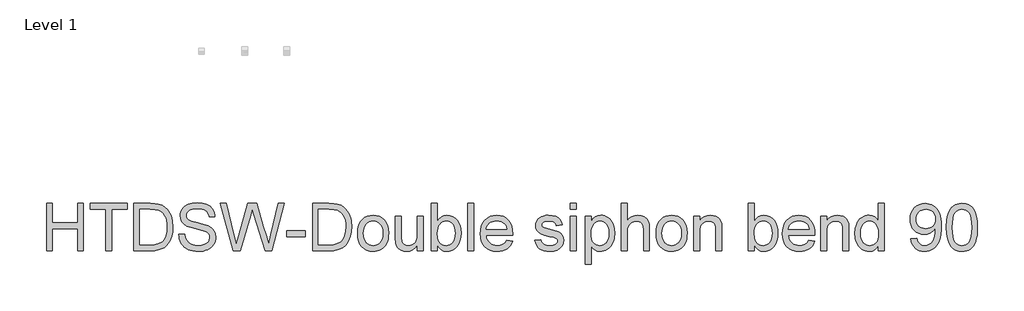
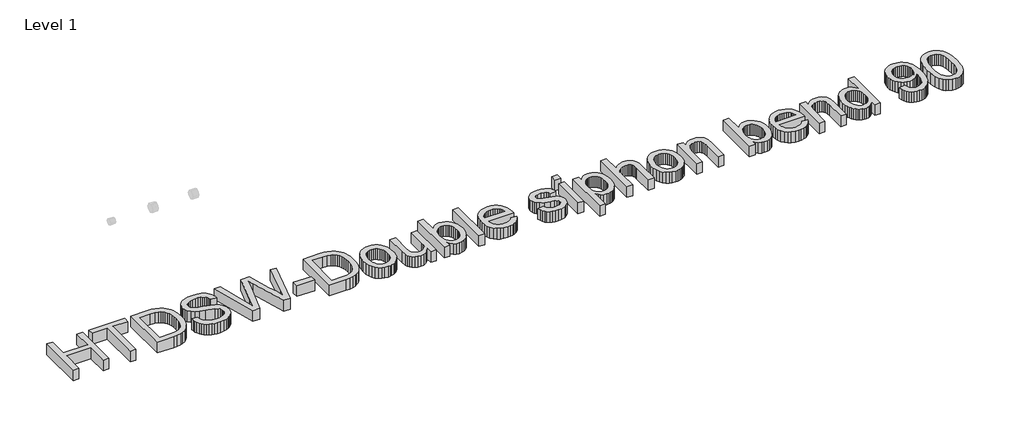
# One storey, part 8 of 29: 1 proxy.
"""IFC4 building model written with IfcOpenShell, lengths in millimetres."""

import ifcopenshell
import ifcopenshell.guid

model = None  # the IFC model being written
_history = None  # IfcOwnerHistory: only IFC2X3 demands one
_inside = {}  # id of a spatial element -> (the spatial element, [elements in it])
_under = {}  # id of a project, library or spatial element -> (it, [spatial elements below it])
_declared = {}  # id of a project -> (the project, [libraries it declares])
_typed = {}  # id of a type object -> (the type object, [elements of that type])
_made_of = {}  # id of a material, layer set ... -> (it, [elements and type objects made of it])


def new_model(schema):
    """Start an empty IFC model of exactly this schema.

    Asked for "IFC4X3", IfcOpenShell would pick the latest addendum, in which some entities
    have other attributes; the version numbers below select the first issue.
    IFC2X3 requires an IfcOwnerHistory on every rooted entity: one is made here for all.
    """
    global model, _history
    if schema == "IFC4X3":
        model = ifcopenshell.file(schema_version=(4, 3, 0, 0))
    else:
        model = ifcopenshell.file(schema=schema)
    _inside.clear()
    _under.clear()
    _declared.clear()
    _typed.clear()
    _made_of.clear()
    _history = None
    if model.schema == "IFC2X3":
        org = make("IfcOrganization", Name="unknown")
        user = make(
            "IfcPersonAndOrganization",
            ThePerson=make("IfcPerson", FamilyName="unknown"),
            TheOrganization=org,
        )
        app = make(
            "IfcApplication",
            ApplicationDeveloper=org,
            Version="unknown",
            ApplicationFullName="unknown",
            ApplicationIdentifier="unknown",
        )
        _history = make(
            "IfcOwnerHistory",
            OwningUser=user,
            OwningApplication=app,
            ChangeAction="ADDED",
            CreationDate=0,
        )
    return model


def make(cls, **values):
    """One entity of the class cls with the attributes given. An attribute that is None is left unset."""
    return model.create_entity(
        cls, **{name: value for name, value in values.items() if value is not None}
    )


def rooted(cls, **values):
    """An entity with a GlobalId (a new one), such as an element, a storey or a relation."""
    return make(cls, GlobalId=ifcopenshell.guid.new(), OwnerHistory=_history, **values)


def si_unit(unit_type, name, prefix=None):
    """IfcSIUnit, for example si_unit("LENGTHUNIT", "METRE", prefix="MILLI")."""
    return make("IfcSIUnit", UnitType=unit_type, Prefix=prefix, Name=name)


def assignment(units):
    """IfcUnitAssignment: the units of a project."""
    return None if units is None else make("IfcUnitAssignment", Units=units)


def point(xyz):
    """IfcCartesianPoint."""
    return None if xyz is None else make("IfcCartesianPoint", Coordinates=xyz)


def direction(xyz):
    """IfcDirection."""
    return None if xyz is None else make("IfcDirection", DirectionRatios=xyz)


def frame(location, z_axis=None, x_axis=None):
    """IfcAxis2Placement3D, a coordinate frame: its origin and axes. An axis left out is left unset."""
    return make(
        "IfcAxis2Placement3D",
        Location=point(location),
        Axis=direction(z_axis),
        RefDirection=direction(x_axis),
    )


def origin():
    """The frame at (0, 0, 0) with its axes left unset."""
    return frame((0.0, 0.0, 0.0))


def origin_with_axes():
    """The frame at (0, 0, 0) with the z axis (0, 0, 1) and the x axis (1, 0, 0) written out."""
    return frame((0.0, 0.0, 0.0), z_axis=(0.0, 0.0, 1.0), x_axis=(1.0, 0.0, 0.0))


def place(relative_to, where):
    """IfcLocalPlacement: puts the frame where relative to a parent placement (None: the world)."""
    return make(
        "IfcLocalPlacement", PlacementRelTo=relative_to, RelativePlacement=where
    )


def context(
    kind, dimensions, precision=None, world=None, true_north=None, identifier=None
):
    """IfcGeometricRepresentationContext, for example the 3D "Model" context."""
    return make(
        "IfcGeometricRepresentationContext",
        ContextIdentifier=identifier,
        ContextType=kind,
        CoordinateSpaceDimension=dimensions,
        Precision=precision,
        WorldCoordinateSystem=world,
        TrueNorth=true_north,
    )


def project(units=None, contexts=None):
    """IfcProject with its units and contexts."""
    return rooted(
        "IfcProject",
        Name="project",
        RepresentationContexts=contexts,
        UnitsInContext=assignment(units),
    )


def spatial(cls, under=None, at=None, **own):
    """A site, building, storey or space (cls), placed at a placement, below another one or the project."""
    s = rooted(cls, ObjectPlacement=at, **own)
    if under is not None:
        _under.setdefault(under.id(), (under, []))[1].append(s)
    return s


def polyline(points):
    """IfcPolyline through the points."""
    return make("IfcPolyline", Points=[point(p) for p in points])


def outline(outer, holes=None, kind="AREA"):
    """IfcArbitraryClosedProfileDef: a profile drawn as a closed curve; with holes, ...WithVoids."""
    if holes is None:
        return make("IfcArbitraryClosedProfileDef", ProfileType=kind, OuterCurve=outer)
    return make(
        "IfcArbitraryProfileDefWithVoids",
        ProfileType=kind,
        OuterCurve=outer,
        InnerCurves=holes,
    )


def extrude(swept, where, along, depth):
    """IfcExtrudedAreaSolid: the profile swept, set in the frame where, extruded along a direction by depth."""
    return make(
        "IfcExtrudedAreaSolid",
        SweptArea=swept,
        Position=where,
        ExtrudedDirection=direction(along),
        Depth=depth,
    )


def shape(context_of_items, identifier, shape_type, items):
    """IfcShapeRepresentation: the items that make up one representation, for example the "Body"."""
    return make(
        "IfcShapeRepresentation",
        ContextOfItems=context_of_items,
        RepresentationIdentifier=identifier,
        RepresentationType=shape_type,
        Items=items,
    )


def made_of(thing, what):
    """Note that an element or type object is made of a material, layer set ...; save() writes the relation."""
    if what is not None:
        _made_of.setdefault(what.id(), (what, []))[1].append(thing)
    return thing


def element(
    cls,
    number,
    at=None,
    inside=None,
    cuts=None,
    type_object=None,
    material=None,
    context=None,
    identifier="Body",
    shape_type=None,
    held_by="IfcProductDefinitionShape",
    body=None,
    shapes=None,
    **own,
):
    """One element of the class cls, such as IfcWall. Its Tag is "e" and its number.

    at: its placement. inside: the storey or other place that contains it. cuts: it is an
    opening in that element (IfcRelVoidsElement). A single representation is given by context,
    identifier, shape_type and body (its items); several are given by shapes. held_by: the class
    of the entity that holds the representations. save() writes the other relations.
    """
    e = rooted(cls, Tag="e%d" % number, ObjectPlacement=at, **own)
    if body is not None:
        shapes = [shape(context, identifier, shape_type, body)]
    if shapes is not None:
        e.Representation = make(held_by, Representations=shapes)
    if inside is not None:
        _inside.setdefault(inside.id(), (inside, []))[1].append(e)
    if cuts is not None:
        rooted(
            "IfcRelVoidsElement", RelatingBuildingElement=cuts, RelatedOpeningElement=e
        )
    if type_object is not None:
        _typed.setdefault(type_object.id(), (type_object, []))[1].append(e)
    return made_of(e, material)


def aggregate(whole, parts):
    """IfcRelAggregates: a whole, such as a stair, and the parts it consists of."""
    return rooted("IfcRelAggregates", RelatingObject=whole, RelatedObjects=parts)


def save(model, path):
    """Write the relations noted so far, then the file.

    IfcRelAggregates (storeys below a building ...), IfcRelContainedInSpatialStructure (elements
    in a storey), IfcRelDefinesByType, IfcRelAssociatesMaterial and IfcRelDeclares: one each for
    every whole, place, type object, material and project.
    """
    for whole, parts in _under.values():
        aggregate(whole, parts)
    for where, things in _inside.values():
        rooted(
            "IfcRelContainedInSpatialStructure",
            RelatedElements=things,
            RelatingStructure=where,
        )
    for kind, things in _typed.values():
        rooted("IfcRelDefinesByType", RelatedObjects=things, RelatingType=kind)
    for what, things in _made_of.values():
        rooted("IfcRelAssociatesMaterial", RelatedObjects=things, RelatingMaterial=what)
    for by, libraries in _declared.values():
        rooted("IfcRelDeclares", RelatingContext=by, RelatedDefinitions=libraries)
    model.write(path)


model = new_model("IFC4")

# Units and contexts
model_context = context("Model", 3, world=origin())
ifc_project = project(units=[si_unit("LENGTHUNIT", "METRE", prefix="MILLI")], contexts=[model_context])

# Site, building, storey
site = spatial("IfcSite", under=ifc_project)
building = spatial("IfcBuilding", under=site)
storey = spatial("IfcBuildingStorey", under=building, Name="Level 1", Elevation=0.0)

# Proxy
placement = place(None, origin())
element("IfcBuildingElementProxy", 1, Name="600mm Arial", ObjectType="600mm Arial", at=placement, inside=storey, context=model_context, shape_type="SweptSolid", body=[
    extrude(outline(polyline([(14784.323056, -35209.9898461), (14784.323056, -34607.2519852), (14859.6652886, -34607.2519852), (14859.6652886, -34852.1142412), (15179.8697772, -34852.1142412), (15179.8697772, -34607.2519852), (15255.2120098, -34607.2519852), (15255.2120098, -35209.9898461), (15179.8697772, -35209.9898461), (15179.8697772, -34927.4564738), (14859.6652886, -34927.4564738), (14859.6652886, -35209.9898461), (14784.323056, -35209.9898461)])), origin_with_axes(), (0.0, 0.0, 1.0), 150.0),
    extrude(outline(polyline([(15537.7453821, -35209.9898461), (15537.7453821, -34682.5942178), (15339.9720215, -34682.5942178), (15339.9720215, -34607.2519852), (15810.8609753, -34607.2519852), (15810.8609753, -34682.5942178), (15613.0876147, -34682.5942178), (15613.0876147, -35209.9898461), (15537.7453821, -35209.9898461)])), origin_with_axes(), (0.0, 0.0, 1.0), 150.0),
    extrude(outline(polyline([(15895.620987, -35209.9898461), (15895.620987, -34607.2519852), (16103.5478907, -34607.2519852), (16165.6831597, -34609.422489), (16211.1165861, -34615.9340003), (16259.1619746, -34632.6726311), (16299.7025705, -34659.0497701), (16322.0422047, -34680.607655), (16341.3836006, -34704.9614431), (16357.7267582, -34732.1111344), (16371.0716776, -34762.0567288), (16381.4367528, -34794.5223148), (16388.8403779, -34829.2319811), (16394.7632781, -34905.3835541), (16390.7533643, -34970.0756029), (16378.7236231, -35027.0053417), (16360.4030997, -35075.4737946), (16337.5208396, -35114.7819857), (16311.1804888, -35145.812832), (16282.4856931, -35169.4492502), (16249.5418605, -35186.9788273), (16210.4543985, -35199.6891502), (16165.1497308, -35207.4146721), (16113.5542809, -35209.9898461), (15895.620987, -35209.9898461)]), holes=[polyline([(15970.9632196, -35134.6476135), (16104.2836547, -35134.6476135), (16159.4291657, -35131.9252867), (16201.2573486, -35123.7583064), (16232.8216238, -35110.6249192), (16257.1754119, -35093.0033716), (16283.3502158, -35060.3906328), (16303.0135085, -35018.1761738), (16315.3191612, -34966.1760538), (16319.4210454, -34904.2063317), (16317.41149, -34860.4651625), (16311.3828239, -34822.0950704), (16301.3350469, -34789.0960554), (16287.2681591, -34761.4681176), (16270.3225947, -34738.5858575), (16251.6387878, -34719.8238757), (16231.2167386, -34705.1821723), (16209.0564469, -34694.6607472), (16165.7199479, -34685.6108502), (16102.2235155, -34682.5942178), (15970.9632196, -34682.5942178), (15970.9632196, -35134.6476135)])]), origin_with_axes(), (0.0, 0.0, 1.0), 150.0),
    extrude(outline(polyline([(16470.1055107, -35002.7987064), (16545.4477433, -35002.7987064), (16554.0929702, -35044.6084952), (16569.727955, -35078.2145154), (16594.1185312, -35104.8859601), (16629.0305326, -35125.892022), (16671.704844, -35139.5220499), (16719.3823506, -35144.0653926), (16761.3576863, -35140.6256959), (16798.1090976, -35130.3066059), (16827.8891451, -35113.9726453), (16848.9503893, -35092.4883368), (16861.4767712, -35067.8218491), (16865.6522319, -35041.9413507), (16862.5252349, -35016.7230399), (16853.1442441, -34994.9260317), (16834.0879567, -34976.3295969), (16801.9350703, -34960.7130062), (16692.2326594, -34931.9446341), (16620.2197588, -34912.9067409), (16574.1425389, -34894.7885526), (16536.6369695, -34869.4414832), (16510.0574953, -34838.7233366), (16494.2201755, -34803.2963004), (16488.9410688, -34763.8225623), (16490.5735452, -34741.3863592), (16495.4709742, -34719.695117), (16503.633356, -34698.7488359), (16515.0606905, -34678.5475159), (16529.624219, -34659.9142928), (16547.1951828, -34643.6723027), (16567.7735819, -34629.8215456), (16591.3594163, -34618.3620214), (16644.3712118, -34602.9661599), (16703.04839, -34597.8342061), (16766.6183988, -34603.2052832), (16822.2421565, -34619.3185146), (16846.5775504, -34631.3206647), (16867.9331003, -34645.8428065), (16886.3088059, -34662.8849399), (16901.7046674, -34682.447065), (16914.0011231, -34703.9589647), (16923.0786113, -34726.8504218), (16928.9371321, -34751.1214365), (16931.5766854, -34776.7720086), (16856.2344528, -34776.7720086), (16851.1944695, -34752.7309202), (16842.4020898, -34731.8168288), (16829.8573138, -34714.0297343), (16813.5601414, -34699.3696368), (16793.20707, -34687.9101126), (16768.494597, -34679.7247382), (16739.4227223, -34674.8135136), (16705.991446, -34673.1764387), (16671.4933119, -34674.7951195), (16642.016767, -34679.6511618), (16617.5618114, -34687.7445657), (16598.128445, -34699.0753312), (16583.3211947, -34712.6961621), (16572.7445873, -34727.6597622), (16566.3986229, -34743.9661317), (16564.2833014, -34761.6152704), (16565.7824206, -34776.7995997), (16570.279778, -34790.5675834), (16577.7753736, -34802.9192214), (16588.2692075, -34813.8545137), (16604.7871091, -34824.2103918), (16630.7963662, -34834.6766346), (16711.2889467, -34855.9402139), (16794.3567012, -34876.1369355), (16844.6093818, -34893.758483), (16887.5596047, -34921.0921153), (16904.1648783, -34937.1593614), (16917.5235932, -34954.8268942), (16927.7920994, -34974.0027432), (16935.1267467, -34994.5949379), (16940.9944645, -35040.0283643), (16939.3068058, -35063.5958046), (16934.2438299, -35086.4734662), (16925.8055366, -35108.661349), (16913.9919261, -35130.1594531), (16899.0099318, -35150.1354455), (16881.0664875, -35167.756993), (16860.1615931, -35183.0240958), (16836.2952487, -35195.9367539), (16810.1618314, -35206.2052601), (16782.4557187, -35213.5399073), (16722.3254066, -35219.4076252), (16683.785169, -35217.8257326), (16648.5098842, -35213.0800549), (16616.4995521, -35205.170592), (16587.7541727, -35194.0973439), (16562.0990021, -35179.8419166), (16539.3592963, -35162.3859159), (16519.5350552, -35141.7293419), (16502.626279, -35117.8721945), (16489.0054482, -35091.5870259), (16479.0450432, -35063.6463884), (16472.745064, -35034.0502819), (16470.1055107, -35002.7987064)])), origin_with_axes(), (0.0, 0.0, 1.0), 150.0),
    extrude(outline(polyline([(17161.8708144, -35209.9898461), (16997.501139, -34607.2519852), (17075.1978163, -34607.2519852), (17170.5528295, -35003.3873176), (17199.9833891, -35125.6712928), (17231.4740879, -35017.5139862), (17350.9621599, -34607.2519852), (17462.9454393, -34607.2519852), (17549.7655901, -34904.6477901), (17586.9584598, -35015.0123886), (17614.3656685, -35125.6712928), (17642.9133113, -35006.9189848), (17739.1512412, -34607.2519852), (17816.8479186, -34607.2519852), (17652.3310904, -35209.9898461), (17571.8385098, -35209.9898461), (17427.3344621, -34744.9870042), (17407.1745288, -34680.0926202), (17384.5129979, -34758.230756), (17252.8112436, -35209.9898461), (17161.8708144, -35209.9898461)])), origin_with_axes(), (0.0, 0.0, 1.0), 150.0),
    extrude(outline(polyline([(17845.1012558, -35031.0520436), (17845.1012558, -34955.709811), (18080.5457328, -34955.709811), (18080.5457328, -35031.0520436), (17845.1012558, -35031.0520436)])), origin_with_axes(), (0.0, 0.0, 1.0), 150.0),
    extrude(outline(polyline([(18174.7235235, -35209.9898461), (18174.7235235, -34607.2519852), (18382.6504272, -34607.2519852), (18444.7856962, -34609.422489), (18490.2191226, -34615.9340003), (18538.2645112, -34632.6726311), (18578.805107, -34659.0497701), (18601.1447412, -34680.607655), (18620.4861371, -34704.9614431), (18636.8292947, -34732.1111344), (18650.1742141, -34762.0567288), (18660.5392893, -34794.5223148), (18667.9429145, -34829.2319811), (18673.8658146, -34905.3835541), (18669.8559008, -34970.0756029), (18657.8261596, -35027.0053417), (18639.5056362, -35075.4737946), (18616.6233761, -35114.7819857), (18590.2830253, -35145.812832), (18561.5882297, -35169.4492502), (18528.644397, -35186.9788273), (18489.556935, -35199.6891502), (18444.2522673, -35207.4146721), (18392.6568175, -35209.9898461), (18174.7235235, -35209.9898461)]), holes=[polyline([(18250.0657561, -35134.6476135), (18383.3861912, -35134.6476135), (18438.5317023, -35131.9252867), (18480.3598851, -35123.7583064), (18511.9241603, -35110.6249192), (18536.2779484, -35093.0033716), (18562.4527523, -35060.3906328), (18582.116045, -35018.1761738), (18594.4216977, -34966.1760538), (18598.523582, -34904.2063317), (18596.5140266, -34860.4651625), (18590.4853604, -34822.0950704), (18580.4375834, -34789.0960554), (18566.3706956, -34761.4681176), (18549.4251312, -34738.5858575), (18530.7413244, -34719.8238757), (18510.3192751, -34705.1821723), (18488.1589834, -34694.6607472), (18444.8224844, -34685.6108502), (18381.326052, -34682.5942178), (18250.0657561, -34682.5942178), (18250.0657561, -35134.6476135)])]), origin_with_axes(), (0.0, 0.0, 1.0), 150.0),
    extrude(outline(polyline([(18749.2080472, -34988.6720378), (18753.2823403, -34931.3468259), (18765.5052196, -34881.949471), (18785.8766851, -34840.4799731), (18814.3967367, -34806.9383322), (18843.1099265, -34785.5000089), (18874.8029603, -34770.1869209), (18909.4758384, -34760.999068), (18947.1285606, -34757.9364504), (18988.6946275, -34761.6658541), (19026.2783719, -34772.8540653), (19059.8797936, -34791.501084), (19089.4988927, -34817.60691), (19113.6733383, -34850.2886268), (19130.9407995, -34888.6633174), (19141.3012762, -34932.7309819), (19144.7547684, -34982.4916203), (19143.2280581, -35022.820684), (19138.6479273, -35058.6064051), (19131.0143759, -35089.8487835), (19120.3274039, -35116.5478193), (19106.7203686, -35139.6094219), (19090.3266272, -35159.9395006), (19071.1461797, -35177.5380556), (19049.1790261, -35192.4050867), (19025.2804919, -35204.2186973), (19000.305903, -35212.6569906), (18974.2552592, -35217.7199665), (18947.1285606, -35219.4076252), (18904.9554884, -35215.692017), (18867.0222561, -35204.5451926), (18833.3288639, -35185.9671518), (18803.8753117, -35159.9578947), (18779.9583835, -35126.9588798), (18762.8748633, -35087.4115653), (18752.6247512, -35041.3159513), (18749.2080472, -34988.6720378)]), holes=[polyline([(18824.5502798, -34988.524885), (18826.7299806, -35025.0693627), (18833.2690831, -35056.7118128), (18844.1675872, -35083.4522353), (18859.4254929, -35105.2906303), (18877.9851396, -35122.2545888), (18898.7888664, -35134.371702), (18921.8366734, -35141.6419699), (18947.1285606, -35144.0653926), (18972.2916891, -35141.6281743), (18995.2475256, -35134.3165197), (19015.9960701, -35122.1304286), (19034.5373227, -35105.0699011), (19049.7952284, -35083.0153755), (19060.6937325, -35055.8472901), (19067.232835, -35023.565645), (19069.4125358, -34986.1704402), (19067.2190394, -34950.7847908), (19060.6385502, -34919.9700752), (19049.6710682, -34893.7262934), (19034.3165935, -34872.0534453), (19015.706363, -34855.0894868), (18994.9716141, -34842.9723736), (18972.1123466, -34835.7021057), (18947.1285606, -34833.278683), (18921.8366734, -34835.6929086), (18898.7888664, -34842.9355854), (18877.9851396, -34855.0067134), (18859.4254929, -34871.9062925), (18844.1675872, -34893.6803081), (18833.2690831, -34920.3747454), (18826.7299806, -34951.9896043), (18824.5502798, -34988.524885)])]), origin_with_axes(), (0.0, 0.0, 1.0), 150.0),
    extrude(outline(polyline([(19512.0481524, -35209.9898461), (19512.0481524, -35133.9118495), (19484.7880965, -35171.3162513), (19453.0398804, -35198.0336812), (19416.8035038, -35214.0641392), (19376.078967, -35219.4076252), (19339.382738, -35215.6552288), (19305.2248947, -35204.3980398), (19276.5668873, -35187.475468), (19256.3701657, -35166.7269235), (19242.776926, -35141.5270068), (19233.929364, -35111.2503186), (19229.5147801, -35041.2055867), (19229.5147801, -34767.3542295), (19304.8570127, -34767.3542295), (19304.8570127, -35005.7417624), (19305.9974469, -35053.4192689), (19309.4187494, -35082.555523), (19320.400027, -35108.1785039), (19339.2171911, -35127.6578556), (19364.6194428, -35139.9635083), (19395.3559835, -35144.0653926), (19427.8583578, -35139.8715378), (19458.2638047, -35127.2899736), (19483.3349627, -35107.4795281), (19499.8344702, -35081.5990298), (19508.9947318, -35046.1535995), (19512.0481524, -34997.6483585), (19512.0481524, -34767.3542295), (19587.390385, -34767.3542295), (19587.390385, -35209.9898461), (19512.0481524, -35209.9898461)])), origin_with_axes(), (0.0, 0.0, 1.0), 150.0),
    extrude(outline(polyline([(19766.3281875, -35209.9898461), (19690.9859548, -35209.9898461), (19690.9859548, -34607.2519852), (19766.3281875, -34607.2519852), (19766.3281875, -34830.7770855), (19791.1050398, -34798.9093076), (19819.0824656, -34776.1466092), (19850.2604647, -34762.4889901), (19884.6390371, -34757.9364504), (19923.4505876, -34762.0383347), (19960.1284225, -34774.3439874), (19992.5756145, -34794.0808564), (20018.6952361, -34820.4763896), (20039.1678692, -34853.2730695), (20054.6740953, -34892.2133787), (20064.4413622, -34935.6786364), (20067.6971179, -34982.0501619), (20064.3263991, -35035.5585981), (20054.2142428, -35082.6290994), (20037.3606489, -35123.2616657), (20013.7656174, -35157.4562972), (19985.4433023, -35184.5600032), (19954.4078575, -35203.9197932), (19920.659283, -35215.5356672), (19884.1975787, -35219.4076252), (19848.6877691, -35214.4136271), (19817.2062674, -35199.4316328), (19789.7530735, -35174.4616424), (19766.3281875, -35139.5036558), (19766.3281875, -35209.9898461)]), holes=[polyline([(19766.3281875, -34985.581829), (19771.4785354, -35048.4160738), (19777.9164703, -35072.2180389), (19786.9295792, -35090.9432325), (19805.1857232, -35114.1841775), (19826.4033173, -35130.7848525), (19850.5823614, -35140.7452575), (19877.7228556, -35144.0653926), (19900.2556278, -35141.6189773), (19921.2065074, -35134.2797315), (19940.5754945, -35122.0476551), (19958.3625889, -35104.9227483), (19973.2342186, -35082.9509961), (19983.8568112, -35056.1783839), (19990.2303668, -35024.6049117), (19992.3548853, -34988.2305794), (19990.3177387, -34951.1664684), (19984.2062991, -34919.2894935), (19974.0205664, -34892.5996548), (19959.7605405, -34871.0969521), (19942.612641, -34854.5514594), (19923.7632873, -34842.7332503), (19903.2124793, -34835.6423248), (19880.9602172, -34833.278683), (19858.4274449, -34835.7250983), (19837.4765653, -34843.0643441), (19818.1075783, -34855.2964204), (19800.3204838, -34872.4213273), (19785.4488542, -34894.1723503), (19774.8262615, -34920.2827749), (19768.452706, -34950.7526011), (19766.3281875, -34985.581829)])]), origin_with_axes(), (0.0, 0.0, 1.0), 150.0),
    extrude(outline(polyline([(20152.4571296, -35209.9898461), (20152.4571296, -34607.2519852), (20227.7993622, -34607.2519852), (20227.7993622, -35209.9898461), (20152.4571296, -35209.9898461)])), origin_with_axes(), (0.0, 0.0, 1.0), 150.0),
    extrude(outline(polyline([(20650.7165039, -35078.140939), (20724.5872085, -35087.5587181), (20713.2610416, -35117.1456276), (20697.9709461, -35143.219264), (20678.7169222, -35165.7796273), (20655.4989698, -35184.8267176), (20628.5562122, -35199.9558647), (20598.1277727, -35210.7623983), (20564.2136512, -35217.2463184), (20526.8138479, -35219.4076252), (20480.0652433, -35215.6782214), (20438.4118044, -35204.4900103), (20401.8535312, -35185.8429916), (20370.3904235, -35159.7371655), (20345.0893393, -35126.899099), (20327.0171363, -35088.0553588), (20316.1738145, -35043.2059451), (20312.5593739, -34992.3508577), (20316.2106027, -34939.7713236), (20327.1642891, -34893.4273892), (20345.4204331, -34853.3190547), (20370.9790347, -34819.44632), (20402.3593689, -34792.5357521), (20438.0807106, -34773.3139178), (20478.1430599, -34761.7808173), (20522.5464167, -34757.9364504), (20565.5196323, -34761.7716202), (20604.3817666, -34773.2771296), (20639.1328195, -34792.4529786), (20669.7727912, -34819.2991672), (20694.7841684, -34853.0983255), (20712.6494378, -34893.1330836), (20723.3685994, -34939.4034416), (20726.9416533, -34991.9093993), (20726.5001949, -35012.2164855), (20387.9016065, -35012.2164855), (20392.2656067, -35042.2816415), (20400.9430232, -35068.6127953), (20413.9338562, -35091.2099469), (20431.2381055, -35110.0730962), (20451.8992781, -35124.9447259), (20474.9608807, -35135.5673185), (20500.4229133, -35141.940874), (20528.2853759, -35144.0653926), (20568.3845133, -35140.1290552), (20602.1560805, -35128.3200432), (20629.6000773, -35107.9025924), (20650.7165039, -35078.140939)]), holes=[polyline([(20387.9016065, -34936.8742529), (20651.5994207, -34936.8742529), (20641.4090894, -34897.069421), (20632.6443008, -34881.4160421), (20621.433097, -34868.5953546), (20600.8868876, -34853.1443108), (20577.5079868, -34842.1078509), (20551.2963947, -34835.485975), (20522.2521111, -34833.278683), (20495.760009, -34835.0399181), (20471.4660017, -34840.3236232), (20449.3700894, -34849.1297985), (20429.472272, -34861.4584439), (20412.7750279, -34876.7393422), (20400.2808356, -34894.4022765), (20391.9896952, -34914.4472467), (20387.9016065, -34936.8742529)])]), origin_with_axes(), (0.0, 0.0, 1.0), 150.0),
    extrude(outline(polyline([(21009.4750256, -35078.140939), (21084.8172582, -35068.7231599), (21089.3697979, -35085.9032491), (21096.6998466, -35100.9496227), (21106.8074044, -35113.8622808), (21119.6924713, -35124.6412232), (21135.3918355, -35133.1392973), (21153.9422851, -35139.2093502), (21199.5964407, -35144.0653926), (21244.6987733, -35139.6140204), (21262.2283503, -35134.0498052), (21276.4102013, -35126.259904), (21295.172183, -35106.909311), (21299.8626785, -35096.0751863), (21301.4261769, -35084.4685093), (21299.8534814, -35074.2965722), (21295.1353948, -35065.2650692), (21276.2630485, -35050.6233658), (21248.0464994, -35041.0584339), (21198.7135239, -35029.1390573), (21129.956379, -35009.2550354), (21085.2587166, -34992.2772813), (21056.5455268, -34973.7544229), (21035.7418, -34949.2350879), (21023.1050535, -34920.2827749), (21018.8928046, -34888.4609823), (21022.277319, -34859.269546), (21032.4308621, -34832.3221898), (21048.4337288, -34808.6857717), (21069.3662144, -34789.4271492), (21090.1699412, -34777.3054375), (21117.2644501, -34767.1335003), (21148.589602, -34760.2357129), (21182.0852577, -34757.9364504), (21231.1239277, -34761.6336645), (21273.7614509, -34772.7253066), (21308.0480528, -34790.126125), (21332.0339589, -34812.7508677), (21347.9264611, -34842.2733978), (21357.9328514, -34880.3675784), (21282.5906188, -34889.7853575), (21273.0808692, -34866.0753629), (21254.2637051, -34848.214692), (21225.9551856, -34837.0126853), (21187.9713696, -34833.278683), (21144.708447, -34836.8471384), (21115.8664986, -34847.5525044), (21099.6429026, -34863.0035482), (21094.2350372, -34880.8090368), (21096.4791174, -34892.3973197), (21103.2113579, -34902.7348037), (21114.7260644, -34911.9686418), (21131.3175424, -34919.3630699), (21196.2119263, -34935.4027249), (21306.7972541, -34970.8665492), (21336.0070845, -34987.8259092), (21358.1535806, -35011.0392631), (21372.1147023, -35040.5801873), (21376.7684095, -35076.5222582), (21371.3053619, -35113.6783398), (21354.916219, -35148.6271293), (21328.2263803, -35178.627906), (21291.8612451, -35200.939949), (21247.9361348, -35214.7907061), (21198.5663711, -35219.4076252), (21158.0165782, -35217.1819391), (21122.5987391, -35210.5048809), (21092.3128538, -35199.3764505), (21067.1589224, -35183.796648), (21046.612713, -35163.8390498), (21030.1499937, -35139.5772322), (21017.7707645, -35111.0111953), (21009.4750256, -35078.140939)])), origin_with_axes(), (0.0, 0.0, 1.0), 150.0),
    extrude(outline(polyline([(21461.5284212, -35209.9898461), (21461.5284212, -34767.3542295), (21536.8706538, -34767.3542295), (21536.8706538, -35209.9898461), (21461.5284212, -35209.9898461)])), origin_with_axes(), (0.0, 0.0, 1.0), 150.0),
    extrude(outline(polyline([(21461.5284212, -34682.5942178), (21461.5284212, -34607.2519852), (21536.8706538, -34607.2519852), (21536.8706538, -34682.5942178), (21461.5284212, -34682.5942178)])), origin_with_axes(), (0.0, 0.0, 1.0), 150.0),
    extrude(outline(polyline([(21649.8840028, -35379.5098695), (21649.8840028, -34767.3542295), (21725.2262354, -34767.3542295), (21725.2262354, -34841.2249341), (21749.8007527, -34804.7862225), (21777.3183259, -34778.7585713), (21809.3976359, -34763.1419806), (21847.6573634, -34757.9364504), (21873.9333349, -34759.7574663), (21898.6090197, -34765.2205139), (21921.6844178, -34774.3255933), (21943.1595293, -34787.0727044), (21962.5653046, -34803.1307535), (21979.432694, -34822.1686468), (21993.7616978, -34844.1863842), (22005.5523157, -34869.1839658), (22021.3344533, -34924.6973588), (22026.5951658, -34985.2875234), (22020.6538716, -35049.7220549), (22013.2272538, -35079.3871393), (22002.8299889, -35107.3507694), (21989.6046312, -35132.8817799), (21973.6937349, -35155.2490052), (21955.0973001, -35174.4524454), (21933.8153266, -35190.4921003), (21910.8916798, -35203.1426425), (21887.3702247, -35212.178744), (21863.2509614, -35217.6004049), (21838.5338899, -35219.4076252), (21803.8978, -35214.5699769), (21772.9773183, -35200.0570322), (21746.5082088, -35178.1496594), (21725.2262354, -35151.1287269), (21725.2262354, -35379.5098695), (21649.8840028, -35379.5098695)]), holes=[polyline([(21725.2262354, -34992.2037049), (21727.2633819, -35028.5136579), (21733.3748216, -35059.7468393), (21743.5605543, -35085.9032491), (21757.8205801, -35106.9828874), (21774.9868737, -35123.2064834), (21793.8914098, -35134.7947663), (21814.5341882, -35141.747736), (21836.9152091, -35144.0653926), (21859.6181267, -35141.6649625), (21880.6379842, -35134.4636725), (21899.9747816, -35122.4615224), (21917.6285189, -35105.6585123), (21932.3392001, -35083.8155188), (21942.8468296, -35056.6934187), (21949.1514073, -35024.292212), (21951.2529332, -34986.6118986), (21949.2019911, -34950.6146454), (21943.0491647, -34919.4366463), (21932.7944541, -34893.0779013), (21918.4378592, -34871.5384105), (21901.2301789, -34854.7997797), (21882.4222119, -34842.8436149), (21862.0139582, -34835.669916), (21840.0054179, -34833.278683), (21818.0658554, -34835.8216673), (21797.4230769, -34843.4506202), (21778.0770825, -34856.1655417), (21760.0278721, -34873.9664317), (21744.802156, -34896.614167), (21733.9266446, -34923.8696243), (21727.4013377, -34955.7328036), (21725.2262354, -34992.2037049)])]), origin_with_axes(), (0.0, 0.0, 1.0), 150.0),
    extrude(outline(polyline([(22111.3551775, -35209.9898461), (22111.3551775, -34607.2519852), (22186.6974101, -34607.2519852), (22186.6974101, -34828.8640991), (22214.3713332, -34797.8332528), (22245.4481648, -34775.6683626), (22279.9279048, -34762.3694285), (22317.8105532, -34757.9364504), (22363.317556, -34762.7740987), (22402.4234121, -34777.2870434), (22433.2151351, -34800.3348504), (22453.7797386, -34830.7770855), (22465.3680215, -34872.6052683), (22469.2307824, -34929.8109186), (22469.2307824, -35209.9898461), (22393.8885498, -35209.9898461), (22393.8885498, -34937.6100169), (22392.3894307, -34912.1709769), (22387.8920733, -34890.4475451), (22380.3964776, -34872.4397214), (22369.9026437, -34858.1475059), (22356.6588919, -34847.2673959), (22340.9135425, -34839.4958887), (22322.6665955, -34834.8329845), (22301.918051, -34833.278683), (22270.0778643, -34837.4725378), (22240.1874522, -34850.054102), (22215.4289939, -34869.8093652), (22198.9846688, -34895.5243166), (22189.7692248, -34929.700554), (22186.6974101, -34974.8396748), (22186.6974101, -35209.9898461), (22111.3551775, -35209.9898461)])), origin_with_axes(), (0.0, 0.0, 1.0), 150.0),
    extrude(outline(polyline([(22553.9907941, -34988.6720378), (22558.0650872, -34931.3468259), (22570.2879665, -34881.949471), (22590.659432, -34840.4799731), (22619.1794837, -34806.9383322), (22647.8926734, -34785.5000089), (22679.5857073, -34770.1869209), (22714.2585853, -34760.999068), (22751.9113075, -34757.9364504), (22793.4773744, -34761.6658541), (22831.0611188, -34772.8540653), (22864.6625405, -34791.501084), (22894.2816396, -34817.60691), (22918.4560853, -34850.2886268), (22935.7235464, -34888.6633174), (22946.0840231, -34932.7309819), (22949.5375153, -34982.4916203), (22948.010805, -35022.820684), (22943.4306742, -35058.6064051), (22935.7971228, -35089.8487835), (22925.1101508, -35116.5478193), (22911.5031155, -35139.6094219), (22895.1093741, -35159.9395006), (22875.9289266, -35177.5380556), (22853.961773, -35192.4050867), (22830.0632389, -35204.2186973), (22805.0886499, -35212.6569906), (22779.0380061, -35217.7199665), (22751.9113075, -35219.4076252), (22709.7382353, -35215.692017), (22671.8050031, -35204.5451926), (22638.1116108, -35185.9671518), (22608.6580586, -35159.9578947), (22584.7411304, -35126.9588798), (22567.6576102, -35087.4115653), (22557.4074981, -35041.3159513), (22553.9907941, -34988.6720378)]), holes=[polyline([(22629.3330267, -34988.524885), (22631.5127275, -35025.0693627), (22638.05183, -35056.7118128), (22648.9503341, -35083.4522353), (22664.2082399, -35105.2906303), (22682.7678865, -35122.2545888), (22703.5716133, -35134.371702), (22726.6194203, -35141.6419699), (22751.9113075, -35144.0653926), (22777.074436, -35141.6281743), (22800.0302725, -35134.3165197), (22820.778817, -35122.1304286), (22839.3200696, -35105.0699011), (22854.5779753, -35083.0153755), (22865.4764794, -35055.8472901), (22872.0155819, -35023.565645), (22874.1952827, -34986.1704402), (22872.0017863, -34950.7847908), (22865.4212971, -34919.9700752), (22854.4538151, -34893.7262934), (22839.0993404, -34872.0534453), (22820.4891099, -34855.0894868), (22799.754361, -34842.9723736), (22776.8950935, -34835.7021057), (22751.9113075, -34833.278683), (22726.6194203, -34835.6929086), (22703.5716133, -34842.9355854), (22682.7678865, -34855.0067134), (22664.2082399, -34871.9062925), (22648.9503341, -34893.6803081), (22638.05183, -34920.3747454), (22631.5127275, -34951.9896043), (22629.3330267, -34988.524885)])]), origin_with_axes(), (0.0, 0.0, 1.0), 150.0),
    extrude(outline(polyline([(23034.297527, -35209.9898461), (23034.297527, -34767.3542295), (23109.6397596, -34767.3542295), (23109.6397596, -34829.1584047), (23135.8145636, -34797.9987997), (23167.2500801, -34775.741939), (23203.9463091, -34762.3878226), (23245.9032506, -34757.9364504), (23283.0409381, -34761.5232999), (23317.0516285, -34772.2838482), (23345.4153303, -34788.8753262), (23365.6120519, -34809.9549645), (23379.3156562, -34835.4675809), (23388.2000064, -34865.357993), (23392.1731319, -34938.1986281), (23392.1731319, -35209.9898461), (23316.8308993, -35209.9898461), (23316.8308993, -34948.3521711), (23314.6603955, -34909.3934678), (23308.1488842, -34881.6919536), (23296.1375371, -34861.84472), (23277.4675258, -34846.4488585), (23253.536802, -34836.5712269), (23225.7433173, -34833.278683), (23202.8656557, -34835.1272901), (23181.615872, -34840.6731111), (23161.9939661, -34849.9161463), (23143.999938, -34862.8563954), (23128.9673599, -34880.9653867), (23118.2298042, -34905.7146479), (23111.7872708, -34937.1041791), (23109.6397596, -34975.1339804), (23109.6397596, -35209.9898461), (23034.297527, -35209.9898461)])), origin_with_axes(), (0.0, 0.0, 1.0), 150.0),
    extrude(outline(polyline([(23806.5554113, -35209.9898461), (23731.2131787, -35209.9898461), (23731.2131787, -34607.2519852), (23806.5554113, -34607.2519852), (23806.5554113, -34830.7770855), (23831.3322637, -34798.9093076), (23859.3096894, -34776.1466092), (23890.4876885, -34762.4889901), (23924.8662609, -34757.9364504), (23963.6778114, -34762.0383347), (24000.3556463, -34774.3439874), (24032.8028383, -34794.0808564), (24058.92246, -34820.4763896), (24079.395093, -34853.2730695), (24094.9013191, -34892.2133787), (24104.6685861, -34935.6786364), (24107.9243417, -34982.0501619), (24104.553623, -35035.5585981), (24094.4414666, -35082.6290994), (24077.5878727, -35123.2616657), (24053.9928412, -35157.4562972), (24025.6705261, -35184.5600032), (23994.6350813, -35203.9197932), (23960.8865068, -35215.5356672), (23924.4248025, -35219.4076252), (23888.914993, -35214.4136271), (23857.4334912, -35199.4316328), (23829.9802973, -35174.4616424), (23806.5554113, -35139.5036558), (23806.5554113, -35209.9898461)]), holes=[polyline([(23806.5554113, -34985.581829), (23811.7057592, -35048.4160738), (23818.1436941, -35072.2180389), (23827.156803, -35090.9432325), (23845.412947, -35114.1841775), (23866.6305411, -35130.7848525), (23890.8095852, -35140.7452575), (23917.9500794, -35144.0653926), (23940.4828516, -35141.6189773), (23961.4337313, -35134.2797315), (23980.8027183, -35122.0476551), (23998.5898128, -35104.9227483), (24013.4614424, -35082.9509961), (24024.084035, -35056.1783839), (24030.4575906, -35024.6049117), (24032.5821091, -34988.2305794), (24030.5449626, -34951.1664684), (24024.4335229, -34919.2894935), (24014.2477902, -34892.5996548), (23999.9877644, -34871.0969521), (23982.8398649, -34854.5514594), (23963.9905111, -34842.7332503), (23943.4397032, -34835.6423248), (23921.187441, -34833.278683), (23898.6546688, -34835.7250983), (23877.7037892, -34843.0643441), (23858.3348021, -34855.2964204), (23840.5477076, -34872.4213273), (23825.676078, -34894.1723503), (23815.0534854, -34920.2827749), (23808.6799298, -34950.7526011), (23806.5554113, -34985.581829)])]), origin_with_axes(), (0.0, 0.0, 1.0), 150.0),
    extrude(outline(polyline([(24502.5881462, -35078.140939), (24576.4588508, -35087.5587181), (24565.1326839, -35117.1456276), (24549.8425884, -35143.219264), (24530.5885645, -35165.7796273), (24507.3706121, -35184.8267176), (24480.4278545, -35199.9558647), (24449.999415, -35210.7623983), (24416.0852935, -35217.2463184), (24378.6854902, -35219.4076252), (24331.9368856, -35215.6782214), (24290.2834467, -35204.4900103), (24253.7251735, -35185.8429916), (24222.2620658, -35159.7371655), (24196.9609816, -35126.899099), (24178.8887786, -35088.0553588), (24168.0454568, -35043.2059451), (24164.4310162, -34992.3508577), (24168.082245, -34939.7713236), (24179.0359314, -34893.4273892), (24197.2920754, -34853.3190547), (24222.850677, -34819.44632), (24254.2310112, -34792.5357521), (24289.9523529, -34773.3139178), (24330.0147022, -34761.7808173), (24374.418059, -34757.9364504), (24417.3912746, -34761.7716202), (24456.2534089, -34773.2771296), (24491.0044618, -34792.4529786), (24521.6444335, -34819.2991672), (24546.6558107, -34853.0983255), (24564.52108, -34893.1330836), (24575.2402417, -34939.4034416), (24578.8132956, -34991.9093993), (24578.3718372, -35012.2164855), (24239.7732488, -35012.2164855), (24244.137249, -35042.2816415), (24252.8146655, -35068.6127953), (24265.8054985, -35091.2099469), (24283.1097478, -35110.0730962), (24303.7709204, -35124.9447259), (24326.832523, -35135.5673185), (24352.2945556, -35141.940874), (24380.1570182, -35144.0653926), (24420.2561556, -35140.1290552), (24454.0277228, -35128.3200432), (24481.4717196, -35107.9025924), (24502.5881462, -35078.140939)]), holes=[polyline([(24239.7732488, -34936.8742529), (24503.4710629, -34936.8742529), (24493.2807317, -34897.069421), (24484.5159431, -34881.4160421), (24473.3047393, -34868.5953546), (24452.7585299, -34853.1443108), (24429.3796291, -34842.1078509), (24403.168037, -34835.485975), (24374.1237534, -34833.278683), (24347.6316513, -34835.0399181), (24323.337644, -34840.3236232), (24301.2417317, -34849.1297985), (24281.3439143, -34861.4584439), (24264.6466702, -34876.7393422), (24252.1524779, -34894.4022765), (24243.8613375, -34914.4472467), (24239.7732488, -34936.8742529)])]), origin_with_axes(), (0.0, 0.0, 1.0), 150.0),
    extrude(outline(polyline([(24654.1555282, -35209.9898461), (24654.1555282, -34767.3542295), (24729.4977608, -34767.3542295), (24729.4977608, -34829.1584047), (24755.6725647, -34797.9987997), (24787.1080812, -34775.741939), (24823.8043102, -34762.3878226), (24865.7612518, -34757.9364504), (24902.8989392, -34761.5232999), (24936.9096297, -34772.2838482), (24965.2733315, -34788.8753262), (24985.470053, -34809.9549645), (24999.1736574, -34835.4675809), (25008.0580075, -34865.357993), (25012.0311331, -34938.1986281), (25012.0311331, -35209.9898461), (24936.6889005, -35209.9898461), (24936.6889005, -34948.3521711), (24934.5183967, -34909.3934678), (24928.0068854, -34881.6919536), (24915.9955382, -34861.84472), (24897.325527, -34846.4488585), (24873.3948032, -34836.5712269), (24845.6013185, -34833.278683), (24822.7236569, -34835.1272901), (24801.4738731, -34840.6731111), (24781.8519672, -34849.9161463), (24763.8579391, -34862.8563954), (24748.8253611, -34880.9653867), (24738.0878054, -34905.7146479), (24731.6452719, -34937.1041791), (24729.4977608, -34975.1339804), (24729.4977608, -35209.9898461), (24654.1555282, -35209.9898461)])), origin_with_axes(), (0.0, 0.0, 1.0), 150.0),
    extrude(outline(polyline([(25388.7422961, -35209.9898461), (25388.7422961, -35138.9150446), (25366.2003269, -35174.1305486), (25338.8942858, -35199.28448), (25306.8241729, -35214.3768389), (25269.9899881, -35219.4076252), (25245.1211652, -35217.5866093), (25221.2824119, -35212.1235617), (25198.4737282, -35203.0184823), (25176.6951141, -35190.2713711), (25156.6271513, -35174.2639058), (25138.9504214, -35155.3777639), (25123.6649245, -35133.6129454), (25110.7706606, -35108.9694502), (25100.5343441, -35081.916328), (25093.2226894, -35052.9226282), (25087.3733657, -34989.1134962), (25092.7628369, -34926.0953104), (25108.9312506, -34869.1839658), (25121.0529624, -34843.8276992), (25135.8602127, -34821.6168238), (25153.3530015, -34802.5513394), (25173.531329, -34786.631246), (25195.6824236, -34774.077273), (25219.0935141, -34765.1101493), (25243.7646004, -34759.7298751), (25269.6956825, -34757.9364504), (25306.5574584, -34763.0684043), (25339.1518032, -34778.4642657), (25366.779741, -34802.0638957), (25388.7422961, -34831.807155), (25388.7422961, -34607.2519852), (25464.0845288, -34607.2519852), (25464.0845288, -35209.9898461), (25388.7422961, -35209.9898461)]), holes=[polyline([(25162.7155983, -34988.8191906), (25164.8401168, -35025.3544712), (25171.2136724, -35056.9693302), (25181.836265, -35083.6637675), (25196.7078947, -35105.4377831), (25214.467398, -35122.3373622), (25233.7536116, -35134.4084902), (25254.5665355, -35141.651167), (25276.9061696, -35144.0653926), (25299.3515698, -35141.7615316), (25320.0403335, -35134.8499486), (25338.9724607, -35123.3306436), (25356.1479514, -35107.2036166), (25370.4079772, -35086.340109), (25380.5937099, -35060.6113619), (25386.7051496, -35030.0173755), (25388.7422961, -34994.5581497), (25386.6683614, -34955.6822199), (25380.4465572, -34922.3429141), (25370.0768834, -34894.5402323), (25355.5593402, -34872.2741745), (25338.0067705, -34855.213647), (25318.5320174, -34843.0275559), (25297.1350808, -34835.7159012), (25273.8159608, -34833.278683), (25251.0348683, -34835.6193322), (25230.2219444, -34842.6412798), (25211.3771892, -34854.3445258), (25194.5006027, -34870.7290701), (25180.5946633, -34892.1535978), (25170.6618494, -34918.9767938), (25164.7021611, -34951.1986581), (25162.7155983, -34988.8191906)])]), origin_with_axes(), (0.0, 0.0, 1.0), 150.0),
    extrude(outline(polyline([(25803.1245755, -35059.3053809), (25878.4668081, -35049.8876018), (25891.342678, -35092.6538837), (25900.8156393, -35108.9188664), (25912.3119517, -35121.7717436), (25925.7028563, -35131.525215), (25940.8595945, -35138.4919803), (25976.4705716, -35144.0653926), (26008.4211229, -35140.4785431), (26037.4654064, -35129.7179947), (26061.5984653, -35112.9609699), (26078.8153427, -35091.3846908), (26091.8567594, -35063.020989), (26103.4634364, -35025.9016957), (26111.6304167, -34983.3009607), (26114.3527434, -34938.4929337), (26113.911285, -34923.7776538), (26087.8100575, -34955.6362346), (26053.6522142, -34980.8729395), (26013.9025646, -34997.3172647), (25971.0259181, -35002.7987064), (25935.2355985, -34999.4509803), (25902.3239555, -34989.4078018), (25872.2909891, -34972.669171), (25845.1366994, -34949.2350879), (25822.6361168, -34920.3287601), (25806.5642722, -34887.1733953), (25796.9211654, -34849.7689935), (25793.7067964, -34808.1155546), (25797.0775152, -34765.0733611), (25807.1896716, -34726.4457516), (25824.0432655, -34692.2327261), (25847.6382969, -34662.4342845), (25876.3100999, -34638.2920285), (25908.3940084, -34621.04756), (25943.8900224, -34610.7008789), (25982.798142, -34607.2519852), (26011.5251273, -34609.2201539), (26038.9921167, -34615.1246599), (26065.1991103, -34624.9655033), (26090.1461081, -34638.742684), (26113.0007771, -34656.1618965), (26132.9307842, -34676.9288351), (26149.9361294, -34701.0434999), (26164.0168128, -34728.5058908), (26175.0578712, -34760.8979005), (26182.9443414, -34799.8014215), (26187.6762236, -34845.2164538), (26189.2535176, -34897.1429974), (26187.6808221, -34951.6769047), (26182.9627355, -35000.3522911), (26175.0992579, -35043.1691569), (26164.0903892, -35080.1275018), (26149.9775161, -35112.1286368), (26132.8020255, -35140.0738729), (26112.5639172, -35163.96321), (26089.2631914, -35183.796648), (26063.3688974, -35199.3764505), (26035.350085, -35210.5048809), (26005.206754, -35217.1819391), (25972.9389045, -35219.4076252), (25939.102958, -35216.7818674), (25908.5227671, -35208.9045942), (25881.1983319, -35195.7758055), (25857.1296524, -35177.3955013), (25836.9237338, -35154.2603223), (25821.1875815, -35126.8669093), (25809.9211954, -35095.2152621), (25803.1245755, -35059.3053809)]), holes=[polyline([(26113.911285, -34806.349721), (26111.878737, -34779.3471825), (26105.7810929, -34755.2877001), (26095.6183528, -34734.1712735), (26081.3905167, -34715.997903), (26063.7965602, -34701.3837907), (26043.5354594, -34690.9451391), (26020.607214, -34684.6819481), (25995.0118242, -34682.5942178), (25968.5978969, -34684.8428965), (25944.6855673, -34691.5889326), (25923.2748351, -34702.8323261), (25904.3657006, -34718.5730769), (25888.9146568, -34737.8914802), (25877.8781969, -34759.8678309), (25871.256321, -34784.502129), (25869.049029, -34811.7943745), (25871.1367594, -34836.2723228), (25877.3999503, -34858.349841), (25887.8386019, -34878.0269292), (25902.4527142, -34895.3035874), (25920.6352818, -34909.3704752), (25941.7792995, -34919.4182522), (25965.8847672, -34925.4469184), (25992.951685, -34927.4564738), (26018.1929884, -34925.4469184), (26041.0890441, -34919.4182522), (26061.639852, -34909.3704752), (26079.8454123, -34895.3035874), (26094.7492316, -34877.6866384), (26105.3948168, -34856.9886776), (26111.782168, -34833.2097052), (26113.911285, -34806.349721)])]), origin_with_axes(), (0.0, 0.0, 1.0), 150.0),
    extrude(outline(polyline([(26255.1779712, -34913.476958), (26260.7145952, -34816.9999047), (26267.6353752, -34776.0868284), (26277.3244673, -34740.0573855), (26289.7404846, -34708.6172704), (26304.8420405, -34681.4721777), (26322.629135, -34658.6221073), (26343.101768, -34640.0670592), (26366.3289175, -34625.7104643), (26392.3795613, -34615.4557537), (26421.2536994, -34609.3029273), (26452.9513318, -34607.2519852), (26499.3780396, -34612.1080275), (26540.948705, -34626.6761545), (26575.7135536, -34650.3861491), (26601.7228106, -34682.6677942), (26621.3677092, -34723.2451783), (26637.0394822, -34771.8423898), (26647.3033898, -34833.5545945), (26650.7246924, -34913.476958), (26645.2432507, -35009.4021882), (26638.3914485, -35050.1773089), (26628.7989255, -35086.1607665), (26616.4794772, -35117.6146771), (26601.4468991, -35144.8011565), (26583.7011914, -35167.7202048), (26563.2423539, -35186.371822), (26539.9876133, -35200.8249859), (26513.8541961, -35211.1486744), (26484.8421022, -35217.3428875), (26452.9513318, -35219.4076252), (26411.4542427, -35215.8207757), (26374.6660432, -35205.0602274), (26342.5867332, -35187.1259801), (26315.2163128, -35162.0180339), (26288.9495383, -35116.6305928), (26270.1875566, -35060.0779331), (26258.9303675, -34992.3600548), (26255.1779712, -34913.476958)]), holes=[polyline([(26330.5202038, -34913.3298052), (26332.7274958, -34978.8265959), (26339.3493717, -35031.8429899), (26350.3858315, -35072.3789873), (26365.8368753, -35100.4345879), (26384.5252807, -35119.523065), (26405.2738252, -35133.1576914), (26428.0825089, -35141.3384673), (26452.9513318, -35144.0653926), (26477.8201547, -35141.3292702), (26500.6288384, -35133.1209032), (26521.3773829, -35119.4402915), (26540.0657882, -35100.2874351), (26555.516832, -35072.1858492), (26566.5532919, -35031.6590489), (26573.1751678, -34978.7070342), (26575.3824598, -34913.3298052), (26573.2487442, -34849.5666584), (26566.8475975, -34797.4837649), (26556.1790196, -34757.0811248), (26541.2430106, -34728.358738), (26522.867305, -34708.3367604), (26501.8796371, -34694.0353479), (26478.2800072, -34685.4545003), (26452.068415, -34682.5942178), (26427.3283508, -34685.1142095), (26404.9059432, -34692.6741845), (26384.8011922, -34705.2741428), (26367.0140977, -34722.9140845), (26351.0480191, -34754.1840541), (26339.6436773, -34796.3433307), (26332.8010722, -34849.3919144), (26330.5202038, -34913.3298052)])]), origin_with_axes(), (0.0, 0.0, 1.0), 150.0),
])

save(model, "model.ifc")
